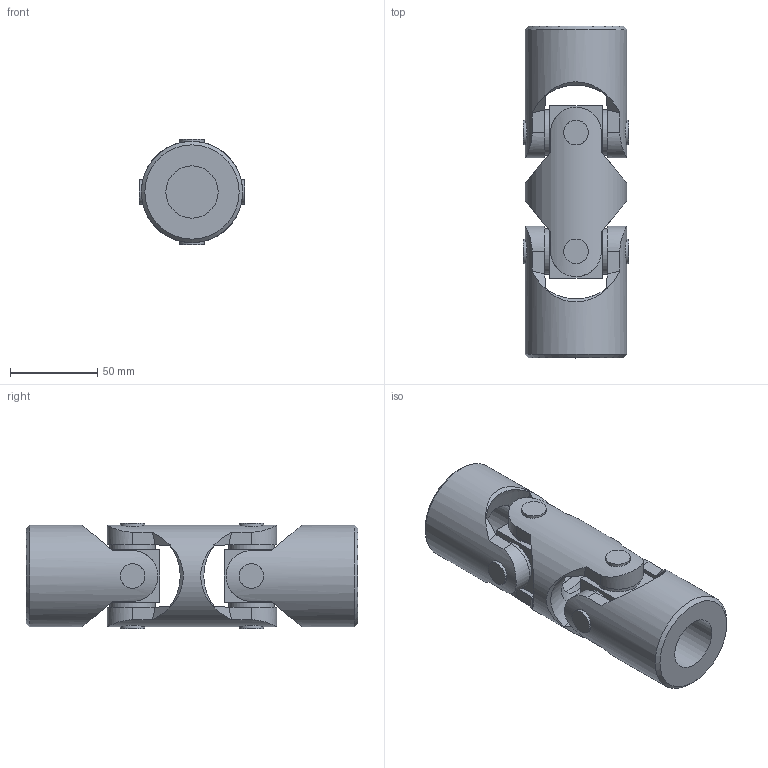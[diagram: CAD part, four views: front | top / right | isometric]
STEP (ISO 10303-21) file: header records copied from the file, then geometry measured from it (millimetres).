
FILE_DESCRIPTION(/* description */ (''),/* implementation_level */ '2;1');
FILE_NAME(/* name */ '\\SRV2016\Societa\Stefano\Disegni 3D\0Catalogo 3D\14Doppi XD\Ø58_6XD_SX0D3000.stp',/* time_stamp */ '2023-05-15T09:12:15+02:00',/* author */ ('acquisti'),/* organization */ (''),/* preprocessor_version */ 'ST-DEVELOPER v15.6',/* originating_system */ 'Autodesk Inventor 2015',/* authorisation */ '');
FILE_SCHEMA (('AUTOMOTIVE_DESIGN { 1 0 10303 214 3 1 1 }'));
Length unit declared in the file: millimetre
Products named in the file (4): 6X SFE; 6X MOD; 6X MOS; Ø58_6XD_SX0D3000
Assembly tree (5 placements, depth 2):
  Ø58_6XD_SX0D3000
    6X SFE  x2
    6X MOD
    6X MOS  x2
Bounding box: 60.5 x 190 x 60.5 mm (x, y, z)
Volume: 325535.4 mm3; surface area: 70922.8 mm2
Topology: 5 solids, 5 shells, 121 faces, 309 edges, 210 vertices
Faces by surface type: plane 62, cylinder 33, cone 22, torus 4
Full cylindrical faces by diameter (mm): 14 x8, 26 x8, 30 x2, 32 x4, 58 x3
Entity records: 3034 total; most frequent: CARTESIAN_POINT 1178, ORIENTED_EDGE 362, DIRECTION 346, EDGE_CURVE 181, AXIS2_PLACEMENT_3D 149, VERTEX_POINT 135, EDGE_LOOP 116, FACE_OUTER_BOUND 82
